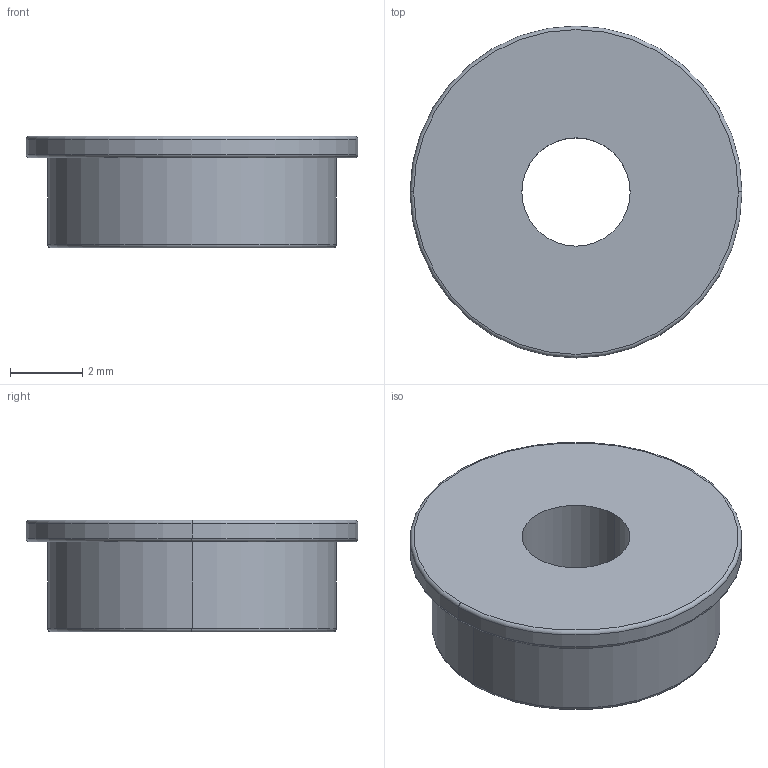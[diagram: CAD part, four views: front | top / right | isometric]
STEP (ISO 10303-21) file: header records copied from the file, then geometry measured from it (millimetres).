
FILE_DESCRIPTION (( 'STEP AP203' ), '1' );
FILE_NAME ('3-8-4____.stp_Défaut_sldprt.STEP', '2024-11-30T15:37:52', ( '' ), ( '' ), 'SwSTEP 2.0', 'SolidWorks 2023', '' );
FILE_SCHEMA (( 'CONFIG_CONTROL_DESIGN' ));
Length unit declared in the file: millimetre
Products named in the file (1): 3-8-4____.stp_Défaut_sldprt
Bounding box: 9.2 x 9.2 x 3.1 mm (x, y, z)
Volume: 143.4 mm3; surface area: 224.2 mm2
Topology: 1 solids, 1 shells, 17 faces, 34 edges, 20 vertices
Faces by surface type: torus 8, cylinder 6, plane 3
Entity records: 533 total; most frequent: DIRECTION 98, CARTESIAN_POINT 72, ORIENTED_EDGE 68, AXIS2_PLACEMENT_3D 46, EDGE_CURVE 34, CIRCLE 28, EDGE_LOOP 20, VERTEX_POINT 20
